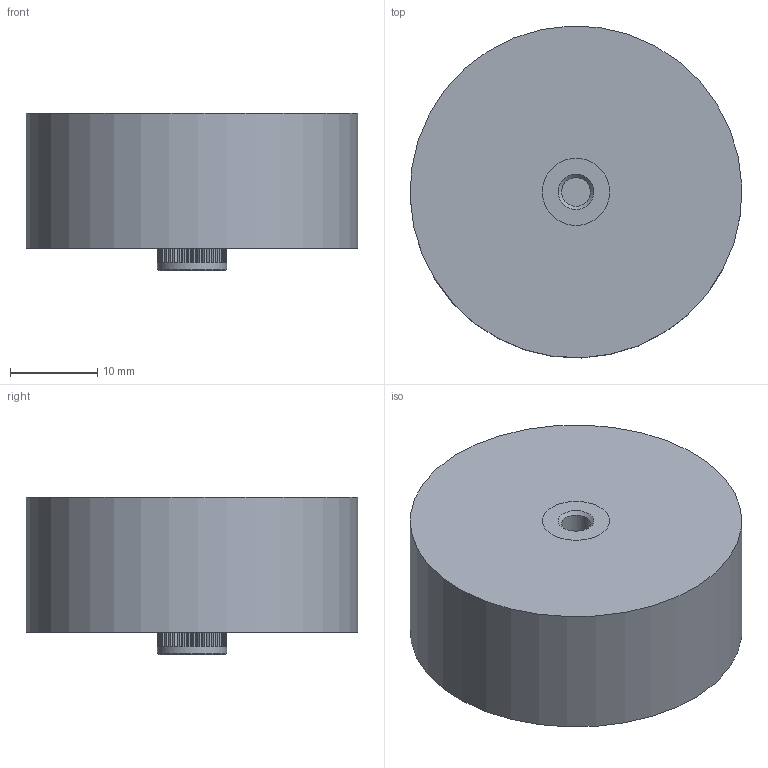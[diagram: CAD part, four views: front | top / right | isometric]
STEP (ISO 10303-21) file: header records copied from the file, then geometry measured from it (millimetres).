
FILE_DESCRIPTION((''),'2;1');
FILE_NAME('I:\Marketing\M6t1\M6T1 - Internal\Drawings\Werk 3\Finished product\Ceramite\Upload for homepage\715\715C10KTD28.stp','2013-06-07T09:37:53',('sherden'),(''),'Autodesk Inventor 2013','Autodesk Inventor 2013','');
FILE_SCHEMA(('CONFIG_CONTROL_DESIGN'));
Length unit declared in the file: millimetre
Products named in the file (1): 715C10KTD28
Bounding box: 37.98 x 37.98 x 18 mm (x, y, z)
Volume: 17570.3 mm3; surface area: 4294.2 mm2
Topology: 1 solids, 1 shells, 173 faces, 499 edges, 332 vertices
Faces by surface type: plane 166, cylinder 4, cone 3
Full cylindrical faces by diameter (mm): 3.302 x2, 7.95 x1, 38 x1
Entity records: 5824 total; most frequent: CARTESIAN_POINT 996, ORIENTED_EDGE 982, DIRECTION 930, EDGE_CURVE 491, VECTOR 400, LINE 400, VERTEX_POINT 331, AXIS2_PLACEMENT_3D 265
